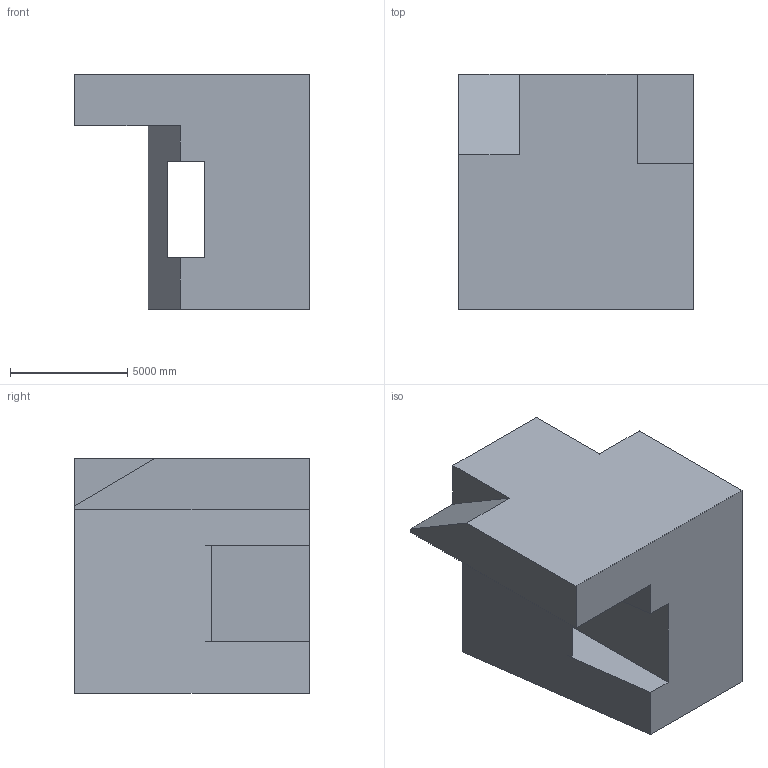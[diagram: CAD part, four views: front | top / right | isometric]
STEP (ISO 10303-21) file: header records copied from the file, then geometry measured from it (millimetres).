
FILE_DESCRIPTION (( 'STEP AP203' ), '1' );
FILE_NAME ('317.STEP', '2022-07-28T14:19:08', ( 'user' ), ( '' ), 'SwSTEP 2.0', 'SolidWorks 2021', '' );
FILE_SCHEMA (( 'CONFIG_CONTROL_DESIGN' ));
Length unit declared in the file: centimetre
Products named in the file (1): 317
Bounding box: 10000 x 10000 x 10000 mm (x, y, z)
Volume: 606692155463.6 mm3; surface area: 603880757.3 mm2
Topology: 1 solids, 1 shells, 17 faces, 48 edges, 32 vertices
Faces by surface type: plane 17
Entity records: 623 total; most frequent: CARTESIAN_POINT 98, ORIENTED_EDGE 96, DIRECTION 84, EDGE_CURVE 48, VECTOR 48, LINE 48, VERTEX_POINT 32, AXIS2_PLACEMENT_3D 18
